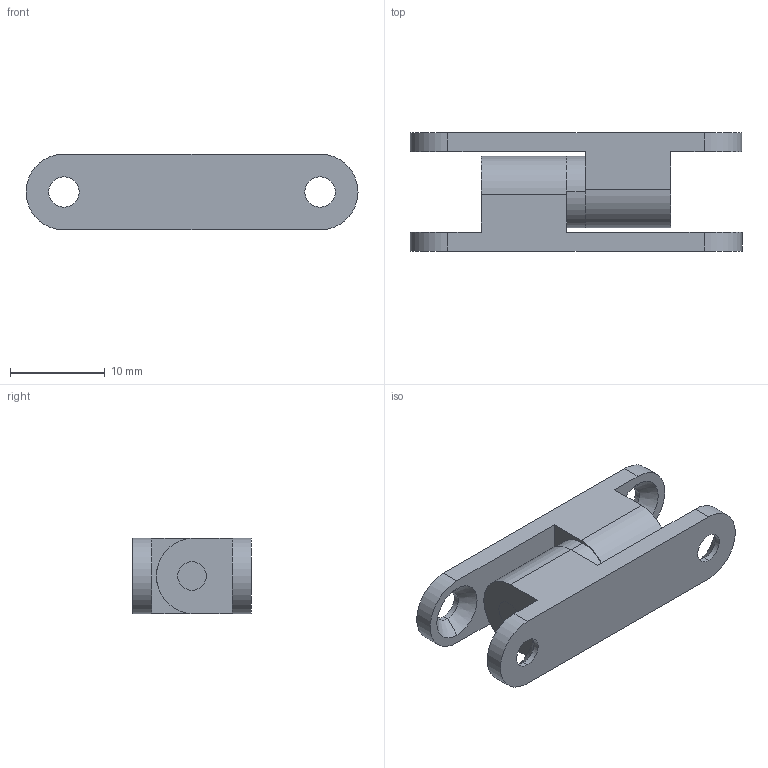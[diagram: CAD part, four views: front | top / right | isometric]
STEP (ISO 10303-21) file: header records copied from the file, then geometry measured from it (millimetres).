
FILE_DESCRIPTION (( 'STEP AP203' ), '1' );
FILE_NAME ('XG02-041-1.STEP', '2023-12-07T08:43:11', ( '' ), ( '' ), 'SwSTEP 2.0', 'SolidWorks 2020', '' );
FILE_SCHEMA (( 'CONFIG_CONTROL_DESIGN' ));
Length unit declared in the file: millimetre
Products named in the file (1): XG02-041-1
Bounding box: 35 x 12.5 x 8 mm (x, y, z)
Volume: 2066.5 mm3; surface area: 2313.8 mm2
Topology: 4 solids, 4 shells, 50 faces, 118 edges, 76 vertices
Faces by surface type: cylinder 24, plane 18, cone 8
Entity records: 1553 total; most frequent: DIRECTION 276, CARTESIAN_POINT 245, ORIENTED_EDGE 236, EDGE_CURVE 118, AXIS2_PLACEMENT_3D 107, VERTEX_POINT 76, EDGE_LOOP 64, LINE 62
